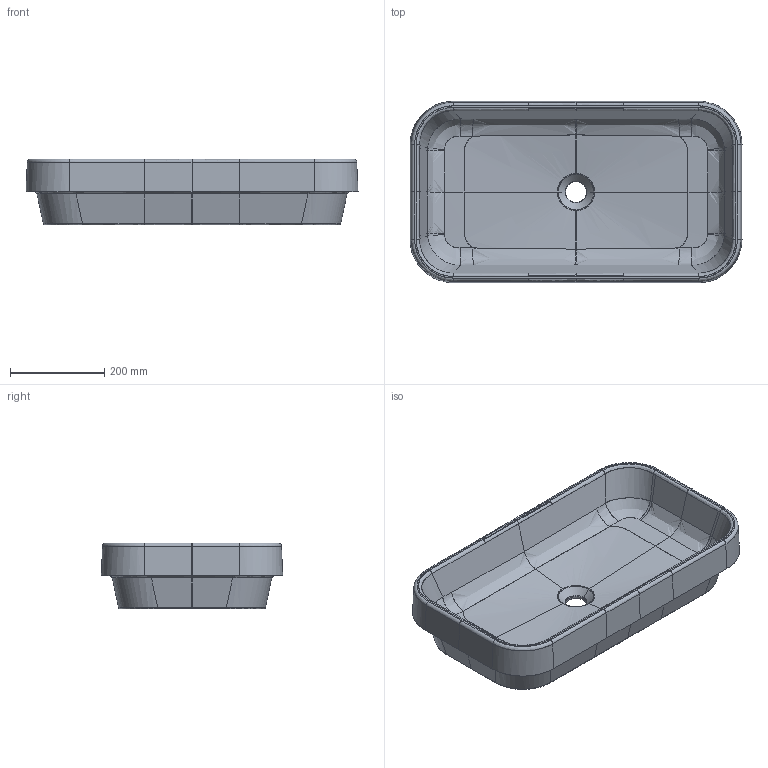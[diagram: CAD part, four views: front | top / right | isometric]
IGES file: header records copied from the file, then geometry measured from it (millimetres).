
Start section: START RECORD GO HERE.
Global section: file name: 3D ART 5453 ciotola 70 x 38.igs; native system: DASSAULT SYSTEMES CATIA V5 R19 - www.3ds.com; preprocessor: CATIA Version 5 Release 19 SP 5 ; author: Luca; organization: DESKTOP-V7SON24; date: 20201011.100235; units: millimetre
Bounding box: 705.7 x 385.71 x 140 mm (x, y, z)
Surface area: 909479.7 mm2 (no closed solid volume)
Topology: 0 solids, 0 shells, 754 faces, 3469 edges, 3466 vertices
Faces by surface type: bspline 720, plane 30, revolution 4
